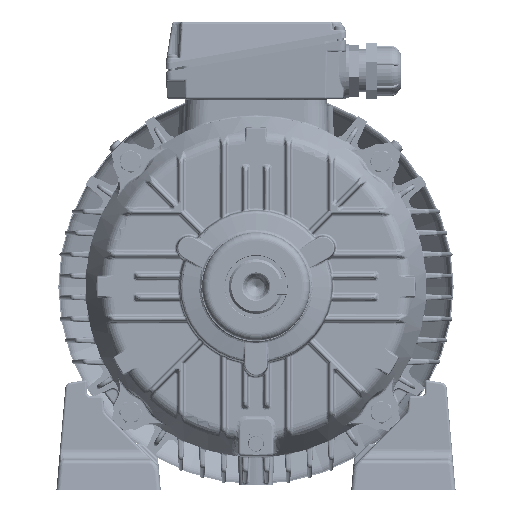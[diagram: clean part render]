
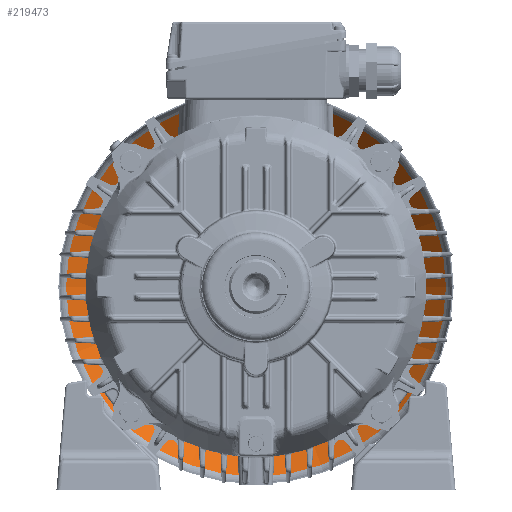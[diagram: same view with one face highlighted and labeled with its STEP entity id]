
A CAD part, front view. The second image highlights one B-rep face of the part: STEP entity #219473.
In plain terms, the highlighted conical face has half-angle 45 degrees and reference radius 168.142 mm.
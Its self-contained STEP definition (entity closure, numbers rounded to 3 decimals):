
#31242=CONICAL_SURFACE('',#236884,168.142,0.785);
#75148=ORIENTED_EDGE('',*,*,#112088,.F.);
#75149=ORIENTED_EDGE('',*,*,#112087,.T.);
#112087=EDGE_CURVE('',#132176,#132176,#141162,.T.);
#112088=EDGE_CURVE('',#132177,#132177,#141163,.T.);
#132176=VERTEX_POINT('',#467293);
#132177=VERTEX_POINT('',#467296);
#141162=CIRCLE('',#236883,168.142);
#141163=CIRCLE('',#236885,139.515);
#149724=EDGE_LOOP('',(#75148));
#149725=EDGE_LOOP('',(#75149));
#161673=FACE_BOUND('',#149724,.T.);
#161674=FACE_BOUND('',#149725,.T.);
#219473=ADVANCED_FACE('',(#161673,#161674),#31242,.F.);
#236883=AXIS2_PLACEMENT_3D('',#467292,#276316,#276317);
#236884=AXIS2_PLACEMENT_3D('',#467294,#276318,#276319);
#236885=AXIS2_PLACEMENT_3D('',#467295,#276320,#276321);
#276316=DIRECTION('',(0.,-1.,0.));
#276317=DIRECTION('',(0.,0.,-1.));
#276318=DIRECTION('',(0.,-1.,0.));
#276319=DIRECTION('',(0.,0.,-1.));
#276320=DIRECTION('',(0.,-1.,0.));
#276321=DIRECTION('',(0.,0.,-1.));
#467292=CARTESIAN_POINT('',(0.,168.444,0.));
#467293=CARTESIAN_POINT('',(0.,168.444,-168.142));
#467294=CARTESIAN_POINT('',(0.,168.444,0.));
#467295=CARTESIAN_POINT('',(0.,197.071,0.));
#467296=CARTESIAN_POINT('',(0.,197.071,-139.515));
